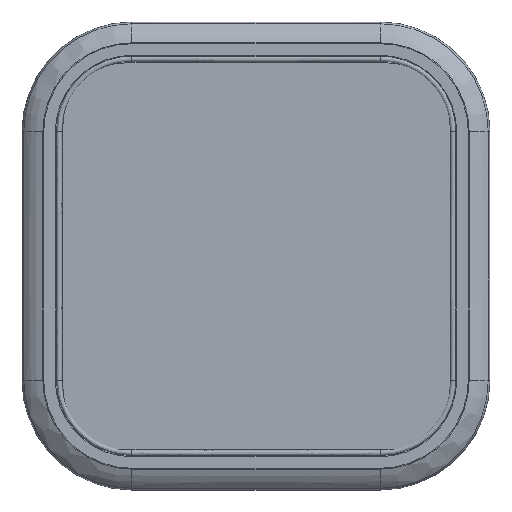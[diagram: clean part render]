
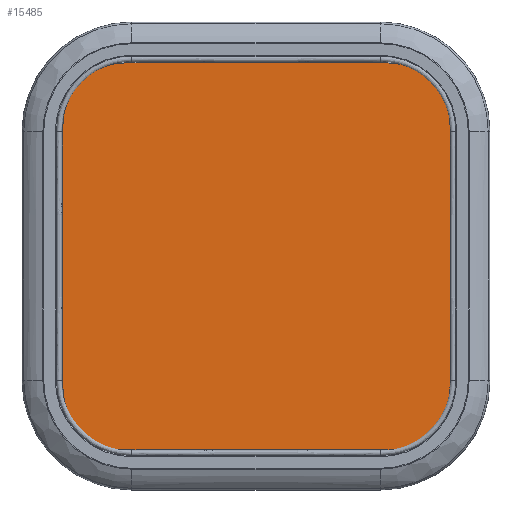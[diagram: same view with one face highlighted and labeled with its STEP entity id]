
A CAD part, top view. The second image highlights one B-rep face of the part: STEP entity #15485.
In plain terms, the highlighted planar face has unit normal (0, 0, 1) as drawn and (0, 1, 0) by its records, which use the part's own axes.
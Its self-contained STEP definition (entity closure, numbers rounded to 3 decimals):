
#14846=DIRECTION('',(-1.,0.,0.));
#14847=VECTOR('',#14846,184.);
#14848=CARTESIAN_POINT('',(92.,6.,-136.5));
#14849=LINE('',#14848,#14847);
#14850=CARTESIAN_POINT('',(92.,6.,-92.));
#14851=DIRECTION('',(0.,1.,0.));
#14852=DIRECTION('',(1.,0.,0.));
#14853=AXIS2_PLACEMENT_3D('',#14850,#14851,#14852);
#14855=DIRECTION('',(0.,0.,-1.));
#14856=VECTOR('',#14855,184.);
#14857=CARTESIAN_POINT('',(136.5,6.,92.));
#14858=LINE('',#14857,#14856);
#14859=CARTESIAN_POINT('',(92.,6.,92.));
#14860=DIRECTION('',(0.,1.,0.));
#14861=DIRECTION('',(0.,0.,1.));
#14862=AXIS2_PLACEMENT_3D('',#14859,#14860,#14861);
#14864=DIRECTION('',(1.,0.,0.));
#14865=VECTOR('',#14864,184.);
#14866=CARTESIAN_POINT('',(-92.,6.,136.5));
#14867=LINE('',#14866,#14865);
#14868=CARTESIAN_POINT('',(-92.,6.,92.));
#14869=DIRECTION('',(0.,1.,0.));
#14870=DIRECTION('',(-1.,0.,0.));
#14871=AXIS2_PLACEMENT_3D('',#14868,#14869,#14870);
#14873=DIRECTION('',(0.,0.,1.));
#14874=VECTOR('',#14873,184.);
#14875=CARTESIAN_POINT('',(-136.5,6.,-92.));
#14876=LINE('',#14875,#14874);
#14877=CARTESIAN_POINT('',(-92.,6.,-92.));
#14878=DIRECTION('',(0.,1.,0.));
#14879=DIRECTION('',(0.,0.,-1.));
#14880=AXIS2_PLACEMENT_3D('',#14877,#14878,#14879);
#15410=CARTESIAN_POINT('',(92.,6.,-136.5));
#15411=CARTESIAN_POINT('',(-92.,6.,-136.5));
#15412=VERTEX_POINT('',#15410);
#15413=VERTEX_POINT('',#15411);
#15414=CARTESIAN_POINT('',(-136.5,6.,-92.));
#15415=VERTEX_POINT('',#15414);
#15416=CARTESIAN_POINT('',(-136.5,6.,92.));
#15417=VERTEX_POINT('',#15416);
#15418=CARTESIAN_POINT('',(-92.,6.,136.5));
#15419=VERTEX_POINT('',#15418);
#15420=CARTESIAN_POINT('',(92.,6.,136.5));
#15421=VERTEX_POINT('',#15420);
#15422=CARTESIAN_POINT('',(136.5,6.,92.));
#15423=VERTEX_POINT('',#15422);
#15424=CARTESIAN_POINT('',(136.5,6.,-92.));
#15425=VERTEX_POINT('',#15424);
#15462=CARTESIAN_POINT('',(0.,6.,0.));
#15463=DIRECTION('',(0.,1.,0.));
#15464=DIRECTION('',(1.,0.,0.));
#15465=AXIS2_PLACEMENT_3D('',#15462,#15463,#15464);
#15466=PLANE('',#15465);
#15468=ORIENTED_EDGE('',*,*,#15467,.F.);
#15470=ORIENTED_EDGE('',*,*,#15469,.F.);
#15472=ORIENTED_EDGE('',*,*,#15471,.F.);
#15474=ORIENTED_EDGE('',*,*,#15473,.F.);
#15476=ORIENTED_EDGE('',*,*,#15475,.F.);
#15478=ORIENTED_EDGE('',*,*,#15477,.F.);
#15480=ORIENTED_EDGE('',*,*,#15479,.F.);
#15482=ORIENTED_EDGE('',*,*,#15481,.F.);
#15483=EDGE_LOOP('',(#15468,#15470,#15472,#15474,#15476,#15478,#15480,#15482));
#15484=FACE_OUTER_BOUND('',#15483,.F.);
#15485=ADVANCED_FACE('',(#15484),#15466,.T.);
#14854=CIRCLE('',#14853,44.5);
#14863=CIRCLE('',#14862,44.5);
#14872=CIRCLE('',#14871,44.5);
#14881=CIRCLE('',#14880,44.5);
#15467=EDGE_CURVE('',#15412,#15413,#14849,.T.);
#15469=EDGE_CURVE('',#15425,#15412,#14854,.T.);
#15471=EDGE_CURVE('',#15423,#15425,#14858,.T.);
#15473=EDGE_CURVE('',#15421,#15423,#14863,.T.);
#15475=EDGE_CURVE('',#15419,#15421,#14867,.T.);
#15477=EDGE_CURVE('',#15417,#15419,#14872,.T.);
#15479=EDGE_CURVE('',#15415,#15417,#14876,.T.);
#15481=EDGE_CURVE('',#15413,#15415,#14881,.T.);
